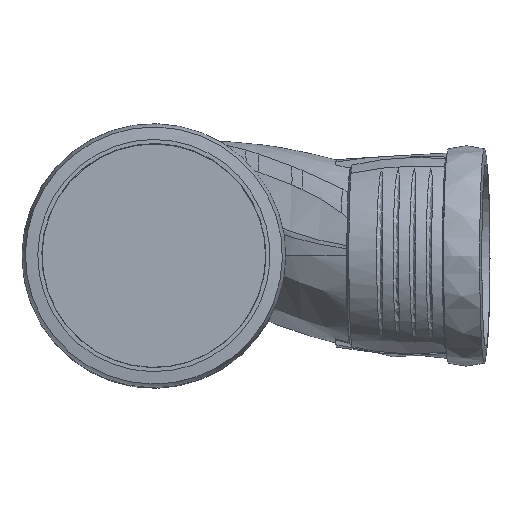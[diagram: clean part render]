
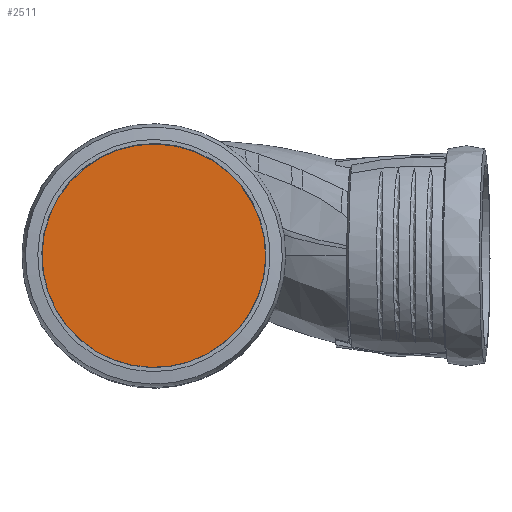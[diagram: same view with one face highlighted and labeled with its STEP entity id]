
A CAD part, top view. The second image highlights one B-rep face of the part: STEP entity #2511.
In plain terms, the highlighted planar face has unit normal (0, 0, 1).
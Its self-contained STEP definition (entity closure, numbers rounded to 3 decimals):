
#19=PLANE('',#2702);
#131=CIRCLE('',#2608,55.5);
#365=FACE_OUTER_BOUND('',#530,.T.);
#530=EDGE_LOOP('',(#2091));
#969=VERTEX_POINT('',#14153);
#1246=EDGE_CURVE('',#969,#969,#131,.T.);
#2091=ORIENTED_EDGE('',*,*,#1246,.T.);
#2511=ADVANCED_FACE('',(#365),#19,.T.);
#2608=AXIS2_PLACEMENT_3D('',#14154,#2827,#2828);
#2702=AXIS2_PLACEMENT_3D('',#23344,#3044,#3045);
#2827=DIRECTION('center_axis',(0.,0.,1.));
#2828=DIRECTION('ref_axis',(-0.479,0.878,0.));
#3044=DIRECTION('center_axis',(0.,0.,1.));
#3045=DIRECTION('ref_axis',(1.,0.,0.));
#14153=CARTESIAN_POINT('',(26.608,-48.706,45.5));
#14154=CARTESIAN_POINT('Origin',(0.,0.,45.5));
#23344=CARTESIAN_POINT('Origin',(0.,0.,45.5));
